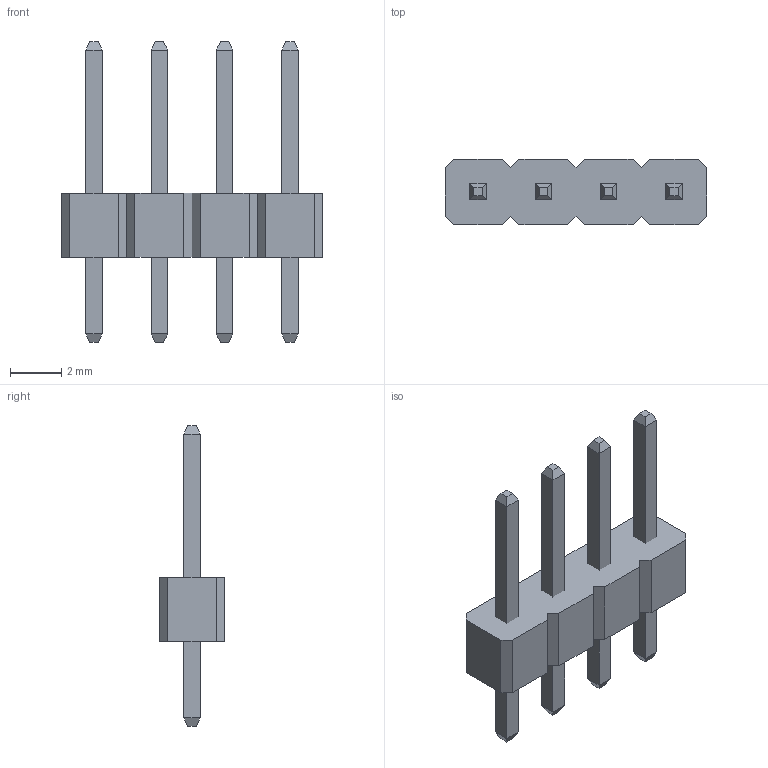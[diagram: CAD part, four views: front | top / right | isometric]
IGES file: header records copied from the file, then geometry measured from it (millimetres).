
Start section: Data from Parasolid IGES Translator 23.1.110, Copyright(c) 2006 Siemens PLM Software. All Rights Reserved.
Global section: file name: 5f3dd49c933f190f816bc9ad.iges; native system: By Siemens PLM Incorporated; preprocessor: XPlus GENERIC/IGES 23.1.110; author: Noname; organization: Noname; date: 20200820.014044; units: metre
Bounding box: 10.16 x 2.54 x 11.68 mm (x, y, z)
Surface area: 238.2 mm2 (no closed solid volume)
Topology: 0 solids, 0 shells, 108 faces, 476 edges, 476 vertices
Faces by surface type: extrusion 108
